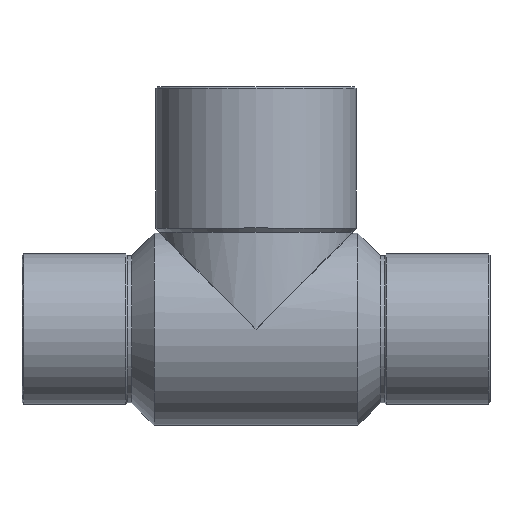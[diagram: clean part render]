
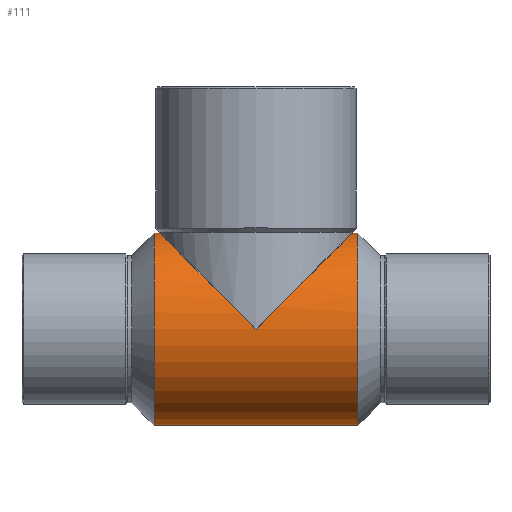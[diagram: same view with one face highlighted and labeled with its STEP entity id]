
A CAD part, top view. The second image highlights one B-rep face of the part: STEP entity #111.
In plain terms, the highlighted cylindrical face has radius 11.5 mm (diameter 23 mm), a partial arc.
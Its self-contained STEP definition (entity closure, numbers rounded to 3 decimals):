
#44=CARTESIAN_POINT('',(0.,0.,0.0));
#45=DIRECTION('',(1.0,0.,0.0));
#46=DIRECTION('',(0.0,1.0,0.0));
#47=AXIS2_PLACEMENT_3D('',#44,#45,#46);
#48=CYLINDRICAL_SURFACE('',#47,11.5);
#49=CARTESIAN_POINT('',(-12.19,11.5,0.0));
#50=VERTEX_POINT('',#49);
#51=CARTESIAN_POINT('',(-11.55,11.5,0.));
#52=VERTEX_POINT('',#51);
#53=CARTESIAN_POINT('',(-12.19,11.5,0.0));
#54=DIRECTION('',(1.0,0.0,0.0));
#55=VECTOR('',#54,0.64);
#56=LINE('',#53,#55);
#57=EDGE_CURVE('',#50,#52,#56,.T.);
#58=ORIENTED_EDGE('',*,*,#57,.F.);
#59=CARTESIAN_POINT('',(-12.19,-11.5,0.));
#60=VERTEX_POINT('',#59);
#61=CARTESIAN_POINT('',(-12.19,0.,0.0));
#62=DIRECTION('',(1.0,0.0,0.0));
#63=DIRECTION('',(0.0,1.0,0.0));
#64=AXIS2_PLACEMENT_3D('',#61,#62,#63);
#65=CIRCLE('',#64,11.5);
#66=EDGE_CURVE('',#50,#60,#65,.T.);
#67=ORIENTED_EDGE('',*,*,#66,.T.);
#68=CARTESIAN_POINT('',(12.19,-11.5,0.));
#69=VERTEX_POINT('',#68);
#70=CARTESIAN_POINT('',(12.19,-11.5,0.));
#71=DIRECTION('',(-1.0,0.0,0.0));
#72=VECTOR('',#71,24.38);
#73=LINE('',#70,#72);
#74=EDGE_CURVE('',#69,#60,#73,.T.);
#75=ORIENTED_EDGE('',*,*,#74,.F.);
#76=CARTESIAN_POINT('',(12.19,11.5,0.0));
#77=VERTEX_POINT('',#76);
#78=CARTESIAN_POINT('',(12.19,0.,0.0));
#79=DIRECTION('',(-1.0,0.0,0.0));
#80=DIRECTION('',(0.0,1.0,0.0));
#81=AXIS2_PLACEMENT_3D('',#78,#79,#80);
#82=CIRCLE('',#81,11.5);
#83=EDGE_CURVE('',#69,#77,#82,.T.);
#84=ORIENTED_EDGE('',*,*,#83,.T.);
#85=CARTESIAN_POINT('',(11.55,11.5,0.));
#86=VERTEX_POINT('',#85);
#87=CARTESIAN_POINT('',(11.55,11.5,0.));
#88=DIRECTION('',(1.0,0.0,0.0));
#89=VECTOR('',#88,0.64);
#90=LINE('',#87,#89);
#91=EDGE_CURVE('',#86,#77,#90,.T.);
#92=ORIENTED_EDGE('',*,*,#91,.F.);
#93=CARTESIAN_POINT('',(0.,0.,11.5));
#94=VERTEX_POINT('',#93);
#95=CARTESIAN_POINT('',(0.0,0.,0.0));
#96=DIRECTION('',(-0.706,0.709,0.));
#97=DIRECTION('',(0.709,0.706,0.0));
#98=AXIS2_PLACEMENT_3D('',#95,#96,#97);
#99=ELLIPSE('',#98,16.299,11.5);
#100=EDGE_CURVE('',#94,#86,#99,.T.);
#101=ORIENTED_EDGE('',*,*,#100,.F.);
#102=CARTESIAN_POINT('',(0.0,0.,0.0));
#103=DIRECTION('',(0.706,0.709,0.));
#104=DIRECTION('',(-0.709,0.706,0.0));
#105=AXIS2_PLACEMENT_3D('',#102,#103,#104);
#106=ELLIPSE('',#105,16.299,11.5);
#107=EDGE_CURVE('',#52,#94,#106,.T.);
#108=ORIENTED_EDGE('',*,*,#107,.F.);
#109=EDGE_LOOP('',(#58,#67,#75,#84,#92,#101,#108));
#110=FACE_OUTER_BOUND('',#109,.T.);
#111=ADVANCED_FACE('',(#110),#48,.T.);
